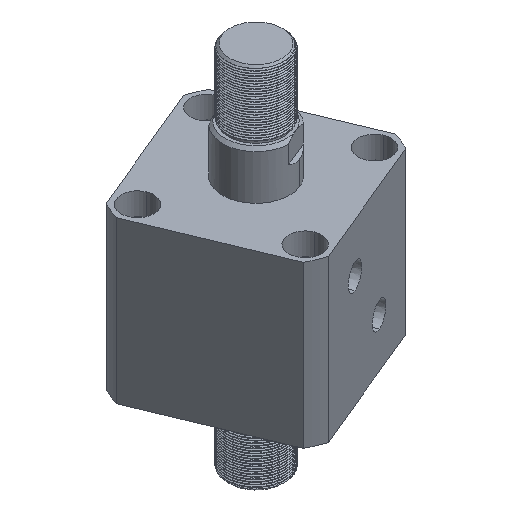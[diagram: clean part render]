
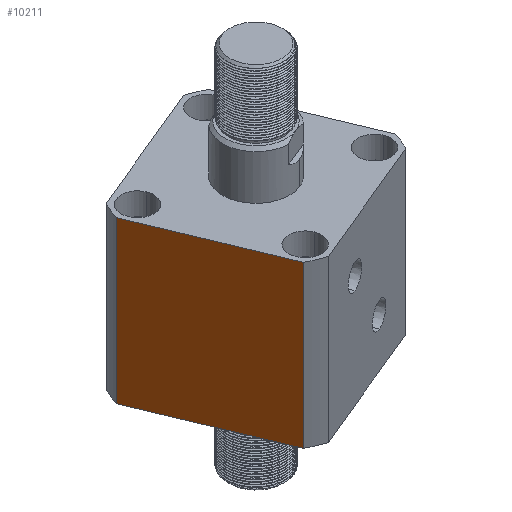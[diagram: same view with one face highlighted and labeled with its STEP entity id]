
A CAD part, isometric view. The second image highlights one B-rep face of the part: STEP entity #10211.
In plain terms, the highlighted planar face has unit normal (-0.924, -0.383, 0) as drawn and (1, 0, 0) by its records, which use the part's own axes.
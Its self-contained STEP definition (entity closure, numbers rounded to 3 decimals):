
#194 = CARTESIAN_POINT ( 'NONE',  ( 57., 47.971, 0. ) ) ;
#335 = VERTEX_POINT ( 'NONE', #194 ) ;
#356 = EDGE_LOOP ( 'NONE', ( #6928, #16336, #13639, #23769 ) ) ;
#1673 = DIRECTION ( 'NONE',  ( 0., -1., 0. ) ) ;
#1771 = LINE ( 'NONE', #9881, #23235 ) ;
#2736 = VECTOR ( 'NONE', #5280, 1000. ) ;
#3765 = CARTESIAN_POINT ( 'NONE',  ( 57., -47.971, 0. ) ) ;
#3931 = VECTOR ( 'NONE', #23282, 1000. ) ;
#5280 = DIRECTION ( 'NONE',  ( 0., 1., 0. ) ) ;
#5656 = CARTESIAN_POINT ( 'NONE',  ( 57., -47.971, -192. ) ) ;
#6852 = EDGE_CURVE ( 'NONE', #20231, #335, #1771, .T. ) ;
#6928 = ORIENTED_EDGE ( 'NONE', *, *, #13978, .F. ) ;
#7479 = CARTESIAN_POINT ( 'NONE',  ( 57., 57., 108. ) ) ;
#7664 = DIRECTION ( 'NONE',  ( 0., 0., 1. ) ) ;
#8075 = CARTESIAN_POINT ( 'NONE',  ( 57., 47.971, 108. ) ) ;
#8208 = VERTEX_POINT ( 'NONE', #3765 ) ;
#9881 = CARTESIAN_POINT ( 'NONE',  ( 57., 47.971, -192. ) ) ;
#10211 = ADVANCED_FACE ( 'NONE', ( #14921 ), #17704, .F. ) ;
#11173 = CARTESIAN_POINT ( 'NONE',  ( 57., 57., 0. ) ) ;
#11825 = DIRECTION ( 'NONE',  ( 0., 0., -1. ) ) ;
#13639 = ORIENTED_EDGE ( 'NONE', *, *, #6852, .F. ) ;
#13734 = DIRECTION ( 'NONE',  ( -1., 0., 0. ) ) ;
#13978 = EDGE_CURVE ( 'NONE', #8208, #22685, #19833, .T. ) ;
#14404 = VECTOR ( 'NONE', #7664, 1000. ) ;
#14691 = EDGE_CURVE ( 'NONE', #22685, #20231, #24210, .T. ) ;
#14921 = FACE_OUTER_BOUND ( 'NONE', #356, .T. ) ;
#16336 = ORIENTED_EDGE ( 'NONE', *, *, #21903, .T. ) ;
#17704 = PLANE ( 'NONE',  #18586 ) ;
#18328 = CARTESIAN_POINT ( 'NONE',  ( 57., -47.971, 108. ) ) ;
#18586 = AXIS2_PLACEMENT_3D ( 'NONE', #21791, #13734, #1673 ) ;
#19833 = LINE ( 'NONE', #5656, #14404 ) ;
#20051 = LINE ( 'NONE', #11173, #3931 ) ;
#20231 = VERTEX_POINT ( 'NONE', #8075 ) ;
#21791 = CARTESIAN_POINT ( 'NONE',  ( 57., 57., 108. ) ) ;
#21903 = EDGE_CURVE ( 'NONE', #8208, #335, #20051, .T. ) ;
#22685 = VERTEX_POINT ( 'NONE', #18328 ) ;
#23235 = VECTOR ( 'NONE', #11825, 1000. ) ;
#23282 = DIRECTION ( 'NONE',  ( 0., 1., 0. ) ) ;
#23769 = ORIENTED_EDGE ( 'NONE', *, *, #14691, .F. ) ;
#24210 = LINE ( 'NONE', #7479, #2736 ) ;
